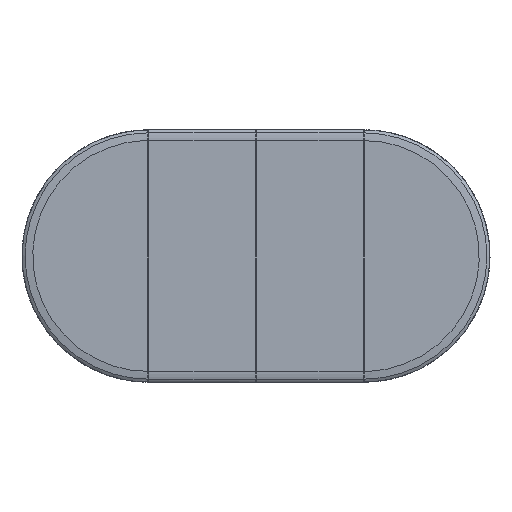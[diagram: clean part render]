
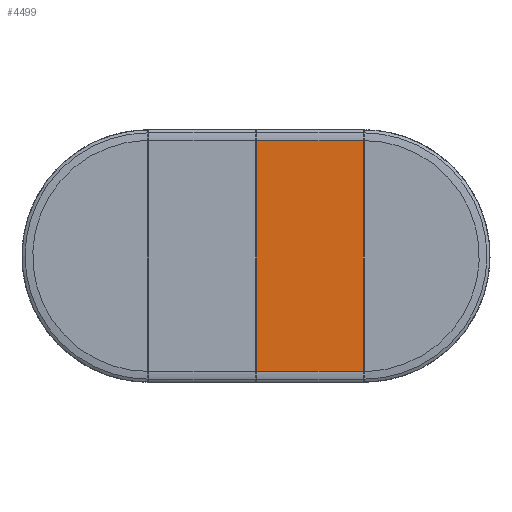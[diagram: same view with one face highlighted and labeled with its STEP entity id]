
A CAD part, top view. The second image highlights one B-rep face of the part: STEP entity #4499.
In plain terms, the highlighted planar face has unit normal (0, 0, 1).
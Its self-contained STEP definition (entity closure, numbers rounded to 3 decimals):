
#4499=ADVANCED_FACE('',(#6293),#29185,.T.);
#6293=FACE_OUTER_BOUND('',#8240,.T.);
#8240=EDGE_LOOP('',(#15045,#15046,#15047,#15048));
#15045=ORIENTED_EDGE('',*,*,#21006,.F.);
#15046=ORIENTED_EDGE('',*,*,#21007,.F.);
#15047=ORIENTED_EDGE('',*,*,#21004,.F.);
#15048=ORIENTED_EDGE('',*,*,#20960,.F.);
#20960=EDGE_CURVE('',#27786,#27787,#24622,.T.);
#21004=EDGE_CURVE('',#27787,#27814,#24642,.T.);
#21006=EDGE_CURVE('',#27815,#27786,#24643,.T.);
#21007=EDGE_CURVE('',#27814,#27815,#24644,.T.);
#24622=B_SPLINE_CURVE_WITH_KNOTS('',1,(#78977,#78978),.UNSPECIFIED.,.F.,
 .F.,(2,2),(0.,1070.),.UNSPECIFIED.);
#24642=B_SPLINE_CURVE_WITH_KNOTS('',1,(#79089,#79090),.UNSPECIFIED.,.F.,
 .F.,(2,2),(0.,496.),.UNSPECIFIED.);
#24643=B_SPLINE_CURVE_WITH_KNOTS('',1,(#79094,#79095),.UNSPECIFIED.,.F.,
 .F.,(2,2),(-496.,0.),.UNSPECIFIED.);
#24644=B_SPLINE_CURVE_WITH_KNOTS('',1,(#79096,#79097),.UNSPECIFIED.,.F.,
 .F.,(2,2),(-1070.,0.),.UNSPECIFIED.);
#27786=VERTEX_POINT('',#78928);
#27787=VERTEX_POINT('',#78929);
#27814=VERTEX_POINT('',#78956);
#27815=VERTEX_POINT('',#78957);
#29185=PLANE('',#29901);
#29901=AXIS2_PLACEMENT_3D('',#78651,#30601,$);
#30601=DIRECTION('',(0.,0.,1.));
#78651=CARTESIAN_POINT('',(23058.894,1484.632,732.52));
#78928=CARTESIAN_POINT('',(23009.174,1377.512,732.52));
#78929=CARTESIAN_POINT('',(23009.174,307.512,732.52));
#78956=CARTESIAN_POINT('',(22513.174,307.512,732.52));
#78957=CARTESIAN_POINT('',(22513.174,1377.512,732.52));
#78977=CARTESIAN_POINT('',(23009.174,1377.512,732.52));
#78978=CARTESIAN_POINT('',(23009.174,307.512,732.52));
#79089=CARTESIAN_POINT('',(23009.174,307.512,732.52));
#79090=CARTESIAN_POINT('',(22513.174,307.512,732.52));
#79094=CARTESIAN_POINT('',(22513.174,1377.512,732.52));
#79095=CARTESIAN_POINT('',(23009.174,1377.512,732.52));
#79096=CARTESIAN_POINT('',(22513.174,307.512,732.52));
#79097=CARTESIAN_POINT('',(22513.174,1377.512,732.52));
